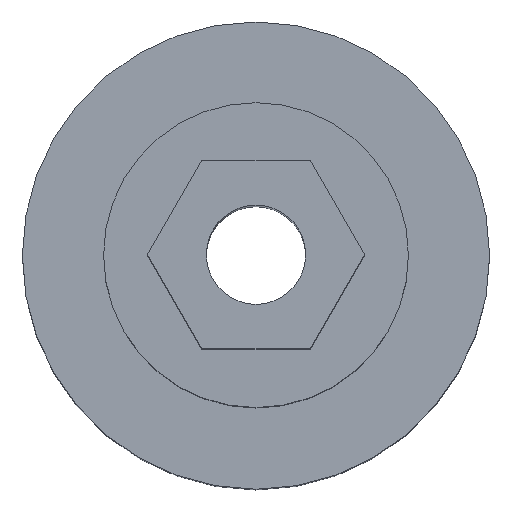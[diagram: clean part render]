
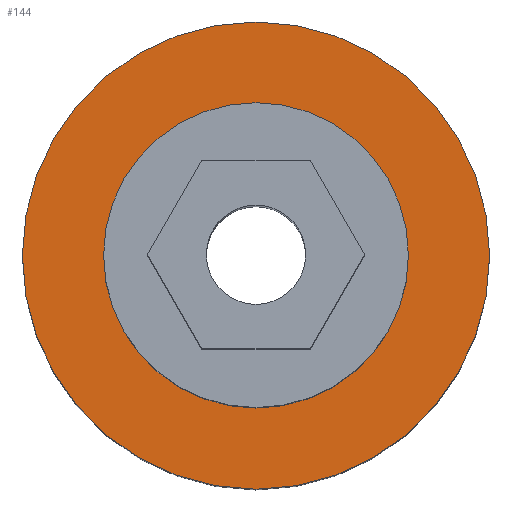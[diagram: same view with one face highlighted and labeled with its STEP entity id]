
A CAD part, top view. The second image highlights one B-rep face of the part: STEP entity #144.
In plain terms, the highlighted planar face has unit normal (0, 0, 1).
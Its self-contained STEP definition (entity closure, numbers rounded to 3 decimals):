
#24 = VERTEX_POINT('',#25);
#25 = CARTESIAN_POINT('',(20.,0.,36.3));
#32 = CYLINDRICAL_SURFACE('',#33,20.);
#33 = AXIS2_PLACEMENT_3D('',#34,#35,#36);
#34 = CARTESIAN_POINT('',(0.,0.,0.));
#35 = DIRECTION('',(-0.,-0.,-1.));
#36 = DIRECTION('',(1.,0.,0.));
#51 = EDGE_CURVE('',#24,#24,#52,.T.);
#52 = SURFACE_CURVE('',#53,(#58,#65),.PCURVE_S1.);
#53 = CIRCLE('',#54,20.);
#54 = AXIS2_PLACEMENT_3D('',#55,#56,#57);
#55 = CARTESIAN_POINT('',(0.,0.,36.3));
#56 = DIRECTION('',(0.,0.,1.));
#57 = DIRECTION('',(1.,0.,0.));
#58 = PCURVE('',#32,#59);
#59 = DEFINITIONAL_REPRESENTATION('',(#60),#64);
#60 = LINE('',#61,#62);
#61 = CARTESIAN_POINT('',(-0.,-36.3));
#62 = VECTOR('',#63,1.);
#63 = DIRECTION('',(-1.,0.));
#64 = ( GEOMETRIC_REPRESENTATION_CONTEXT(2) 
PARAMETRIC_REPRESENTATION_CONTEXT() REPRESENTATION_CONTEXT('2D SPACE',''
  ) );
#65 = PCURVE('',#66,#71);
#66 = PLANE('',#67);
#67 = AXIS2_PLACEMENT_3D('',#68,#69,#70);
#68 = CARTESIAN_POINT('',(0.,0.,36.3));
#69 = DIRECTION('',(0.,0.,1.));
#70 = DIRECTION('',(1.,0.,-0.));
#71 = DEFINITIONAL_REPRESENTATION('',(#72),#76);
#72 = CIRCLE('',#73,20.);
#73 = AXIS2_PLACEMENT_2D('',#74,#75);
#74 = CARTESIAN_POINT('',(0.,0.));
#75 = DIRECTION('',(1.,0.));
#76 = ( GEOMETRIC_REPRESENTATION_CONTEXT(2) 
PARAMETRIC_REPRESENTATION_CONTEXT() REPRESENTATION_CONTEXT('2D SPACE',''
  ) );
#144 = ADVANCED_FACE('',(#145,#148),#66,.T.);
#145 = FACE_BOUND('',#146,.T.);
#146 = EDGE_LOOP('',(#147));
#147 = ORIENTED_EDGE('',*,*,#51,.T.);
#148 = FACE_BOUND('',#149,.T.);
#149 = EDGE_LOOP('',(#150));
#150 = ORIENTED_EDGE('',*,*,#151,.F.);
#151 = EDGE_CURVE('',#152,#152,#154,.T.);
#152 = VERTEX_POINT('',#153);
#153 = CARTESIAN_POINT('',(13.05,0.,36.3));
#154 = SURFACE_CURVE('',#155,(#160,#167),.PCURVE_S1.);
#155 = CIRCLE('',#156,13.05);
#156 = AXIS2_PLACEMENT_3D('',#157,#158,#159);
#157 = CARTESIAN_POINT('',(0.,0.,36.3));
#158 = DIRECTION('',(0.,0.,1.));
#159 = DIRECTION('',(1.,0.,0.));
#160 = PCURVE('',#66,#161);
#161 = DEFINITIONAL_REPRESENTATION('',(#162),#166);
#162 = CIRCLE('',#163,13.05);
#163 = AXIS2_PLACEMENT_2D('',#164,#165);
#164 = CARTESIAN_POINT('',(0.,0.));
#165 = DIRECTION('',(1.,0.));
#166 = ( GEOMETRIC_REPRESENTATION_CONTEXT(2) 
PARAMETRIC_REPRESENTATION_CONTEXT() REPRESENTATION_CONTEXT('2D SPACE',''
  ) );
#167 = PCURVE('',#168,#173);
#168 = CYLINDRICAL_SURFACE('',#169,13.05);
#169 = AXIS2_PLACEMENT_3D('',#170,#171,#172);
#170 = CARTESIAN_POINT('',(0.,0.,36.3));
#171 = DIRECTION('',(-0.,-0.,-1.));
#172 = DIRECTION('',(1.,0.,0.));
#173 = DEFINITIONAL_REPRESENTATION('',(#174),#178);
#174 = LINE('',#175,#176);
#175 = CARTESIAN_POINT('',(-0.,0.));
#176 = VECTOR('',#177,1.);
#177 = DIRECTION('',(-1.,0.));
#178 = ( GEOMETRIC_REPRESENTATION_CONTEXT(2) 
PARAMETRIC_REPRESENTATION_CONTEXT() REPRESENTATION_CONTEXT('2D SPACE',''
  ) );
